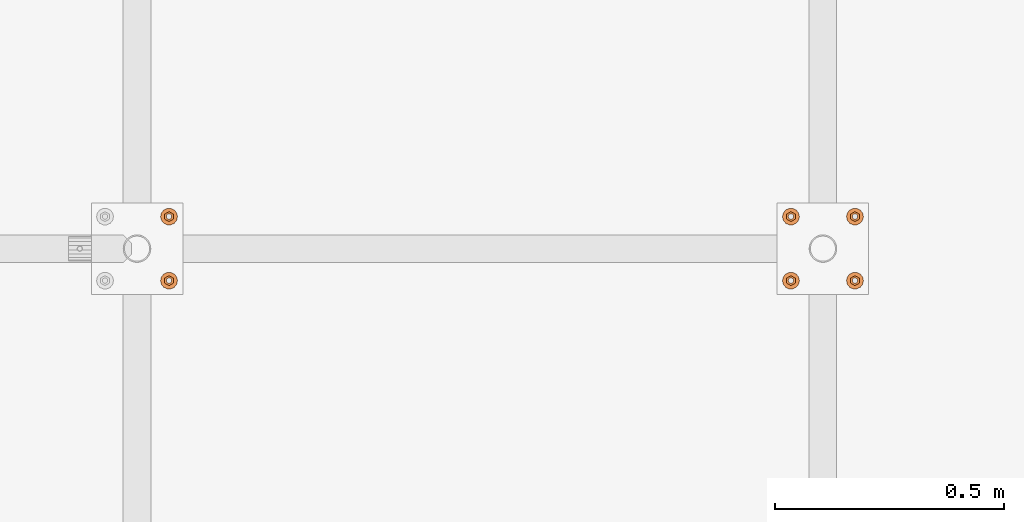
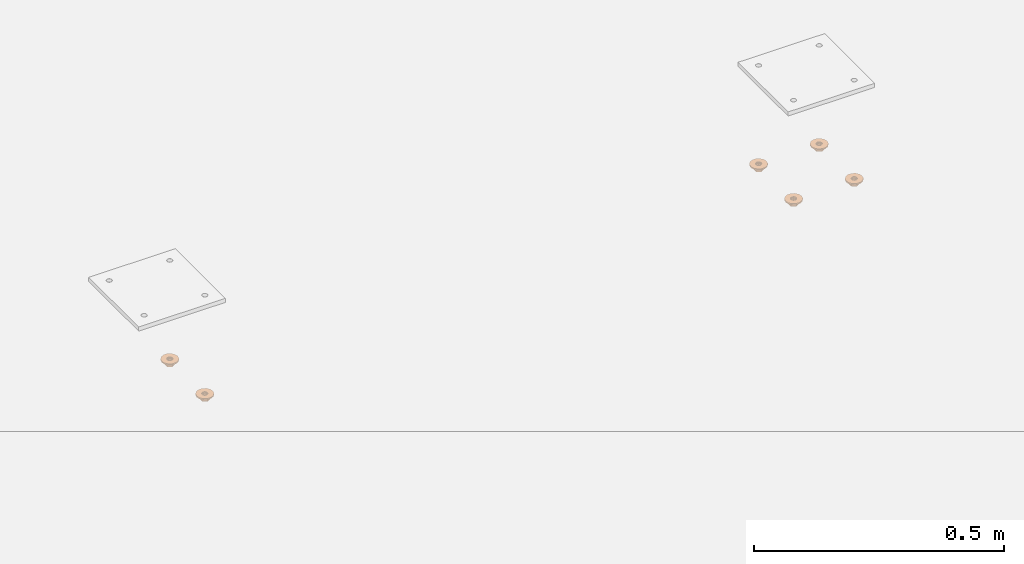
# One storey, part 28 of 30: 12 proxies.
"""IFC2X3 building model written with IfcOpenShell, lengths in millimetres."""

from ifc_helpers import new_model, entity, si_unit, converted_unit, origin_with_axes, place, context, project, spatial, faceted_brep, material, element, save


model = new_model("IFC2X3")

# Units and contexts
model_context = context("Model", 3, precision=1e-09, world=origin_with_axes())
ifc_project = project(units=[si_unit("LENGTHUNIT", "METRE", prefix="MILLI"), si_unit("AREAUNIT", "SQUARE_METRE"), si_unit("VOLUMEUNIT", "CUBIC_METRE"), converted_unit("PLANEANGLEUNIT", "DEGREE", entity("IfcPlaneAngleMeasure", 0.01745329), si_unit("PLANEANGLEUNIT", "RADIAN"), dimensions=[0, 0, 0, 0, 0, 0, 0])], contexts=[model_context])

# Site, building, storey
site_placement = place(None, origin_with_axes())
site = spatial("IfcSite", under=ifc_project, at=site_placement, Name="M?nsinger Stra?e, 81477 M?nchen", CompositionType="ELEMENT")
building_placement = place(site_placement, origin_with_axes())
building = spatial("IfcBuilding", under=site, at=building_placement, Name="Struktur 1", CompositionType="ELEMENT")
storey_placement = place(building_placement, origin_with_axes())
storey = spatial("IfcBuildingStorey", under=building, at=storey_placement, Name="Default Storey", CompositionType="ELEMENT", Elevation=0.0)

# Proxies
ifc_material = material(Name="Kein")
proxy_1_placement = place(None, origin_with_axes())
element("IfcBuildingElementProxy", 1, at=proxy_1_placement, inside=storey, material=ifc_material, ObjectType="-", context=model_context, shape_type="Brep", body=[
    faceted_brep([(7470.315117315, 3061.2632594, 6502.0), (7470.315117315, 3061.2632594, 6512.0), (7471.118964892, 3058.2632594, 6512.0), (7471.118964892, 3058.2632594, 6502.0), (7473.315117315, 3056.067106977, 6512.0), (7473.315117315, 3056.067106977, 6502.0), (7471.118964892, 3064.2632594, 6502.0), (7471.118964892, 3064.2632594, 6512.0), (7466.815117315, 3066.748086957, 6512.0), (7466.815117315, 3055.778431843, 6512.0), (7476.315117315, 3050.293604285, 6512.0), (7485.815117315, 3055.778431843, 6512.0), (7485.815117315, 3066.748086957, 6512.0), (7476.315117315, 3072.232914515, 6512.0), (7473.315117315, 3066.459411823, 6512.0), (7476.315117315, 3067.2632594, 6512.0), (7479.315117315, 3066.459411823, 6512.0), (7481.511269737, 3064.2632594, 6512.0), (7482.315117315, 3061.2632594, 6512.0), (7481.511269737, 3058.2632594, 6512.0), (7479.315117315, 3056.067106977, 6512.0), (7476.315117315, 3055.2632594, 6512.0), (7466.815117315, 3066.748086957, 6502.0), (7476.315117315, 3072.232914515, 6502.0), (7485.815117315, 3066.748086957, 6502.0), (7485.815117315, 3055.778431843, 6502.0), (7476.315117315, 3050.293604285, 6502.0), (7466.815117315, 3055.778431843, 6502.0), (7473.315117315, 3066.459411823, 6502.0), (7476.315117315, 3055.2632594, 6502.0), (7476.315117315, 3067.2632594, 6502.0), (7479.315117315, 3056.067106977, 6502.0), (7479.315117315, 3066.459411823, 6502.0), (7481.511269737, 3058.2632594, 6502.0), (7481.511269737, 3064.2632594, 6502.0), (7482.315117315, 3061.2632594, 6502.0)], [[[0, 1, 2, 3]], [[3, 2, 4, 5]], [[1, 0, 6, 7]], [[8, 9, 10, 11, 12, 13], [7, 14, 15, 16, 17, 18, 19, 20, 21, 4, 2, 1]], [[22, 23, 24, 25, 26, 27]], [[7, 6, 28, 14]], [[22, 27, 9, 8]], [[5, 4, 21, 29]], [[10, 9, 27, 26]], [[14, 28, 30, 15]], [[23, 22, 8, 13]], [[29, 21, 20, 31]], [[11, 10, 26, 25]], [[15, 30, 32, 16]], [[24, 23, 13, 12]], [[31, 20, 19, 33]], [[25, 24, 12, 11]], [[16, 32, 34, 17]], [[33, 19, 18, 35]], [[17, 34, 35, 18]]]),
])
proxy_2_placement = place(None, origin_with_axes())
element("IfcBuildingElementProxy", 2, at=proxy_2_placement, inside=storey, material=ifc_material, ObjectType="-", context=model_context, shape_type="Brep", body=[
    faceted_brep([(7464.78055598, 3046.799376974, 6512.0), (7464.78055598, 3046.799376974, 6515.0), (7459.647193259, 3053.236410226, 6515.0), (7459.647193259, 3053.236410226, 6512.0), (7472.198480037, 3043.227093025, 6515.0), (7480.431754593, 3043.227093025, 6515.0), (7487.849678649, 3046.799376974, 6515.0), (7492.983041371, 3053.236410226, 6515.0), (7494.815117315, 3061.2632594, 6515.0), (7492.983041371, 3069.290108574, 6515.0), (7487.849678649, 3075.727141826, 6515.0), (7480.431754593, 3079.299425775, 6515.0), (7472.198480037, 3079.299425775, 6515.0), (7464.78055598, 3075.727141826, 6515.0), (7459.647193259, 3069.290108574, 6515.0), (7457.815117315, 3061.2632594, 6515.0), (7473.065117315, 3055.634094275, 6515.0), (7470.68595219, 3058.0132594, 6515.0), (7469.815117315, 3061.2632594, 6515.0), (7470.68595219, 3064.5132594, 6515.0), (7473.065117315, 3066.892424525, 6515.0), (7476.315117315, 3067.7632594, 6515.0), (7479.565117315, 3066.892424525, 6515.0), (7481.944282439, 3064.5132594, 6515.0), (7482.815117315, 3061.2632594, 6515.0), (7481.944282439, 3058.0132594, 6515.0), (7479.565117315, 3055.634094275, 6515.0), (7476.315117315, 3054.7632594, 6515.0), (7457.815117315, 3061.2632594, 6512.0), (7459.647193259, 3069.290108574, 6512.0), (7464.78055598, 3075.727141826, 6512.0), (7472.198480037, 3079.299425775, 6512.0), (7480.431754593, 3079.299425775, 6512.0), (7487.849678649, 3075.727141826, 6512.0), (7492.983041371, 3069.290108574, 6512.0), (7494.815117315, 3061.2632594, 6512.0), (7492.983041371, 3053.236410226, 6512.0), (7487.849678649, 3046.799376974, 6512.0), (7480.431754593, 3043.227093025, 6512.0), (7472.198480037, 3043.227093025, 6512.0), (7469.815117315, 3061.2632594, 6512.0), (7470.68595219, 3058.0132594, 6512.0), (7473.065117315, 3055.634094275, 6512.0), (7476.315117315, 3054.7632594, 6512.0), (7479.565117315, 3055.634094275, 6512.0), (7481.944282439, 3058.0132594, 6512.0), (7482.815117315, 3061.2632594, 6512.0), (7481.944282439, 3064.5132594, 6512.0), (7479.565117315, 3066.892424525, 6512.0), (7476.315117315, 3067.7632594, 6512.0), (7473.065117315, 3066.892424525, 6512.0), (7470.68595219, 3064.5132594, 6512.0)], [[[0, 1, 2, 3]], [[4, 5, 6, 7, 8, 9, 10, 11, 12, 13, 14, 15, 2, 1], [16, 17, 18, 19, 20, 21, 22, 23, 24, 25, 26, 27]], [[28, 29, 30, 31, 32, 33, 34, 35, 36, 37, 38, 39, 0, 3], [40, 41, 42, 43, 44, 45, 46, 47, 48, 49, 50, 51]], [[1, 0, 39, 4]], [[41, 17, 16, 42]], [[17, 41, 40, 18]], [[3, 2, 15, 28]], [[4, 39, 38, 5]], [[42, 16, 27, 43]], [[18, 40, 51, 19]], [[28, 15, 14, 29]], [[5, 38, 37, 6]], [[43, 27, 26, 44]], [[19, 51, 50, 20]], [[29, 14, 13, 30]], [[6, 37, 36, 7]], [[44, 26, 25, 45]], [[20, 50, 49, 21]], [[30, 13, 12, 31]], [[7, 36, 35, 8]], [[45, 25, 24, 46]], [[48, 22, 21, 49]], [[31, 12, 11, 32]], [[23, 47, 46, 24]], [[22, 48, 47, 23]], [[8, 35, 34, 9]], [[32, 11, 10, 33]], [[9, 34, 33, 10]]]),
])
proxy_3_placement = place(None, origin_with_axes())
element("IfcBuildingElementProxy", 3, at=proxy_3_placement, inside=storey, material=ifc_material, ObjectType="-", context=model_context, shape_type="Brep", body=[
    faceted_brep([(7464.78055598, 2906.799376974, 6512.0), (7464.78055598, 2906.799376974, 6515.0), (7459.647193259, 2913.236410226, 6515.0), (7459.647193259, 2913.236410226, 6512.0), (7472.198480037, 2903.227093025, 6515.0), (7480.431754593, 2903.227093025, 6515.0), (7487.849678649, 2906.799376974, 6515.0), (7492.983041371, 2913.236410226, 6515.0), (7494.815117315, 2921.2632594, 6515.0), (7492.983041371, 2929.290108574, 6515.0), (7487.849678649, 2935.727141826, 6515.0), (7480.431754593, 2939.299425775, 6515.0), (7472.198480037, 2939.299425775, 6515.0), (7464.78055598, 2935.727141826, 6515.0), (7459.647193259, 2929.290108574, 6515.0), (7457.815117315, 2921.2632594, 6515.0), (7473.065117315, 2915.634094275, 6515.0), (7470.68595219, 2918.0132594, 6515.0), (7469.815117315, 2921.2632594, 6515.0), (7470.68595219, 2924.5132594, 6515.0), (7473.065117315, 2926.892424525, 6515.0), (7476.315117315, 2927.7632594, 6515.0), (7479.565117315, 2926.892424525, 6515.0), (7481.944282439, 2924.5132594, 6515.0), (7482.815117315, 2921.2632594, 6515.0), (7481.944282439, 2918.0132594, 6515.0), (7479.565117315, 2915.634094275, 6515.0), (7476.315117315, 2914.7632594, 6515.0), (7457.815117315, 2921.2632594, 6512.0), (7459.647193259, 2929.290108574, 6512.0), (7464.78055598, 2935.727141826, 6512.0), (7472.198480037, 2939.299425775, 6512.0), (7480.431754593, 2939.299425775, 6512.0), (7487.849678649, 2935.727141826, 6512.0), (7492.983041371, 2929.290108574, 6512.0), (7494.815117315, 2921.2632594, 6512.0), (7492.983041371, 2913.236410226, 6512.0), (7487.849678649, 2906.799376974, 6512.0), (7480.431754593, 2903.227093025, 6512.0), (7472.198480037, 2903.227093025, 6512.0), (7469.815117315, 2921.2632594, 6512.0), (7470.68595219, 2918.0132594, 6512.0), (7473.065117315, 2915.634094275, 6512.0), (7476.315117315, 2914.7632594, 6512.0), (7479.565117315, 2915.634094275, 6512.0), (7481.944282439, 2918.0132594, 6512.0), (7482.815117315, 2921.2632594, 6512.0), (7481.944282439, 2924.5132594, 6512.0), (7479.565117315, 2926.892424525, 6512.0), (7476.315117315, 2927.7632594, 6512.0), (7473.065117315, 2926.892424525, 6512.0), (7470.68595219, 2924.5132594, 6512.0)], [[[0, 1, 2, 3]], [[4, 5, 6, 7, 8, 9, 10, 11, 12, 13, 14, 15, 2, 1], [16, 17, 18, 19, 20, 21, 22, 23, 24, 25, 26, 27]], [[28, 29, 30, 31, 32, 33, 34, 35, 36, 37, 38, 39, 0, 3], [40, 41, 42, 43, 44, 45, 46, 47, 48, 49, 50, 51]], [[1, 0, 39, 4]], [[41, 17, 16, 42]], [[17, 41, 40, 18]], [[3, 2, 15, 28]], [[4, 39, 38, 5]], [[42, 16, 27, 43]], [[18, 40, 51, 19]], [[28, 15, 14, 29]], [[5, 38, 37, 6]], [[43, 27, 26, 44]], [[19, 51, 50, 20]], [[29, 14, 13, 30]], [[6, 37, 36, 7]], [[44, 26, 25, 45]], [[20, 50, 49, 21]], [[30, 13, 12, 31]], [[7, 36, 35, 8]], [[45, 25, 24, 46]], [[48, 22, 21, 49]], [[31, 12, 11, 32]], [[23, 47, 46, 24]], [[22, 48, 47, 23]], [[8, 35, 34, 9]], [[32, 11, 10, 33]], [[9, 34, 33, 10]]]),
])
proxy_4_placement = place(None, origin_with_axes())
element("IfcBuildingElementProxy", 4, at=proxy_4_placement, inside=storey, material=ifc_material, ObjectType="-", context=model_context, shape_type="Brep", body=[
    faceted_brep([(7470.315117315, 2921.2632594, 6502.0), (7470.315117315, 2921.2632594, 6512.0), (7471.118964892, 2918.2632594, 6512.0), (7471.118964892, 2918.2632594, 6502.0), (7473.315117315, 2916.067106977, 6512.0), (7473.315117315, 2916.067106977, 6502.0), (7471.118964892, 2924.2632594, 6502.0), (7471.118964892, 2924.2632594, 6512.0), (7466.815117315, 2926.748086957, 6512.0), (7466.815117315, 2915.778431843, 6512.0), (7476.315117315, 2910.293604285, 6512.0), (7485.815117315, 2915.778431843, 6512.0), (7485.815117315, 2926.748086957, 6512.0), (7476.315117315, 2932.232914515, 6512.0), (7473.315117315, 2926.459411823, 6512.0), (7476.315117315, 2927.2632594, 6512.0), (7479.315117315, 2926.459411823, 6512.0), (7481.511269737, 2924.2632594, 6512.0), (7482.315117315, 2921.2632594, 6512.0), (7481.511269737, 2918.2632594, 6512.0), (7479.315117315, 2916.067106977, 6512.0), (7476.315117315, 2915.2632594, 6512.0), (7466.815117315, 2926.748086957, 6502.0), (7476.315117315, 2932.232914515, 6502.0), (7485.815117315, 2926.748086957, 6502.0), (7485.815117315, 2915.778431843, 6502.0), (7476.315117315, 2910.293604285, 6502.0), (7466.815117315, 2915.778431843, 6502.0), (7473.315117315, 2926.459411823, 6502.0), (7476.315117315, 2915.2632594, 6502.0), (7476.315117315, 2927.2632594, 6502.0), (7479.315117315, 2916.067106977, 6502.0), (7479.315117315, 2926.459411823, 6502.0), (7481.511269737, 2918.2632594, 6502.0), (7481.511269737, 2924.2632594, 6502.0), (7482.315117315, 2921.2632594, 6502.0)], [[[0, 1, 2, 3]], [[3, 2, 4, 5]], [[1, 0, 6, 7]], [[8, 9, 10, 11, 12, 13], [7, 14, 15, 16, 17, 18, 19, 20, 21, 4, 2, 1]], [[22, 23, 24, 25, 26, 27]], [[7, 6, 28, 14]], [[22, 27, 9, 8]], [[5, 4, 21, 29]], [[10, 9, 27, 26]], [[14, 28, 30, 15]], [[23, 22, 8, 13]], [[29, 21, 20, 31]], [[11, 10, 26, 25]], [[15, 30, 32, 16]], [[24, 23, 13, 12]], [[31, 20, 19, 33]], [[25, 24, 12, 11]], [[16, 32, 34, 17]], [[33, 19, 18, 35]], [[17, 34, 35, 18]]]),
])
proxy_5_placement = place(None, origin_with_axes())
element("IfcBuildingElementProxy", 5, at=proxy_5_placement, inside=storey, material=ifc_material, ObjectType="-", context=model_context, shape_type="Brep", body=[
    faceted_brep([(8987.849678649, 2906.799376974, 6515.0), (8987.849678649, 2906.799376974, 6512.0), (8992.983041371, 2913.236410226, 6512.0), (8992.983041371, 2913.236410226, 6515.0), (8972.198480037, 2903.227093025, 6515.0), (8980.431754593, 2903.227093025, 6515.0), (8994.815117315, 2921.2632594, 6515.0), (8992.983041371, 2929.290108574, 6515.0), (8987.849678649, 2935.727141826, 6515.0), (8980.431754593, 2939.299425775, 6515.0), (8972.198480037, 2939.299425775, 6515.0), (8964.78055598, 2935.727141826, 6515.0), (8959.647193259, 2929.290108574, 6515.0), (8957.815117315, 2921.2632594, 6515.0), (8959.647193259, 2913.236410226, 6515.0), (8964.78055598, 2906.799376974, 6515.0), (8979.565117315, 2915.634094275, 6515.0), (8976.315117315, 2914.7632594, 6515.0), (8973.065117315, 2915.634094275, 6515.0), (8970.68595219, 2918.0132594, 6515.0), (8969.815117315, 2921.2632594, 6515.0), (8970.68595219, 2924.5132594, 6515.0), (8973.065117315, 2926.892424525, 6515.0), (8976.315117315, 2927.7632594, 6515.0), (8979.565117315, 2926.892424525, 6515.0), (8981.944282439, 2924.5132594, 6515.0), (8982.815117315, 2921.2632594, 6515.0), (8981.944282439, 2918.0132594, 6515.0), (8992.983041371, 2929.290108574, 6512.0), (8994.815117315, 2921.2632594, 6512.0), (8980.431754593, 2903.227093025, 6512.0), (8972.198480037, 2903.227093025, 6512.0), (8964.78055598, 2906.799376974, 6512.0), (8959.647193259, 2913.236410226, 6512.0), (8957.815117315, 2921.2632594, 6512.0), (8959.647193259, 2929.290108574, 6512.0), (8964.78055598, 2935.727141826, 6512.0), (8972.198480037, 2939.299425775, 6512.0), (8980.431754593, 2939.299425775, 6512.0), (8987.849678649, 2935.727141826, 6512.0), (8982.815117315, 2921.2632594, 6512.0), (8981.944282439, 2924.5132594, 6512.0), (8979.565117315, 2926.892424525, 6512.0), (8976.315117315, 2927.7632594, 6512.0), (8973.065117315, 2926.892424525, 6512.0), (8970.68595219, 2924.5132594, 6512.0), (8969.815117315, 2921.2632594, 6512.0), (8970.68595219, 2918.0132594, 6512.0), (8973.065117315, 2915.634094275, 6512.0), (8976.315117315, 2914.7632594, 6512.0), (8979.565117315, 2915.634094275, 6512.0), (8981.944282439, 2918.0132594, 6512.0)], [[[0, 1, 2, 3]], [[4, 5, 0, 3, 6, 7, 8, 9, 10, 11, 12, 13, 14, 15], [16, 17, 18, 19, 20, 21, 22, 23, 24, 25, 26, 27]], [[28, 29, 2, 1, 30, 31, 32, 33, 34, 35, 36, 37, 38, 39], [40, 41, 42, 43, 44, 45, 46, 47, 48, 49, 50, 51]], [[1, 0, 5, 30]], [[27, 51, 50, 16]], [[51, 27, 26, 40]], [[3, 2, 29, 6]], [[30, 5, 4, 31]], [[16, 50, 49, 17]], [[40, 26, 25, 41]], [[6, 29, 28, 7]], [[31, 4, 15, 32]], [[17, 49, 48, 18]], [[41, 25, 24, 42]], [[7, 28, 39, 8]], [[32, 15, 14, 33]], [[18, 48, 47, 19]], [[42, 24, 23, 43]], [[8, 39, 38, 9]], [[33, 14, 13, 34]], [[19, 47, 46, 20]], [[22, 44, 43, 23]], [[9, 38, 37, 10]], [[45, 21, 20, 46]], [[44, 22, 21, 45]], [[34, 13, 12, 35]], [[10, 37, 36, 11]], [[35, 12, 11, 36]]]),
])
proxy_6_placement = place(None, origin_with_axes())
element("IfcBuildingElementProxy", 6, at=proxy_6_placement, inside=storey, material=ifc_material, ObjectType="-", context=model_context, shape_type="Brep", body=[
    faceted_brep([(8982.315117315, 2921.2632594, 6512.0), (8982.315117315, 2921.2632594, 6502.0), (8981.511269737, 2918.2632594, 6502.0), (8981.511269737, 2918.2632594, 6512.0), (8979.315117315, 2916.067106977, 6502.0), (8979.315117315, 2916.067106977, 6512.0), (8981.511269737, 2924.2632594, 6512.0), (8981.511269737, 2924.2632594, 6502.0), (8985.815117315, 2926.748086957, 6512.0), (8976.315117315, 2932.232914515, 6512.0), (8966.815117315, 2926.748086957, 6512.0), (8966.815117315, 2915.778431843, 6512.0), (8976.315117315, 2910.293604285, 6512.0), (8985.815117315, 2915.778431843, 6512.0), (8979.315117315, 2926.459411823, 6512.0), (8976.315117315, 2915.2632594, 6512.0), (8973.315117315, 2916.067106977, 6512.0), (8971.118964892, 2918.2632594, 6512.0), (8970.315117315, 2921.2632594, 6512.0), (8971.118964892, 2924.2632594, 6512.0), (8973.315117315, 2926.459411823, 6512.0), (8976.315117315, 2927.2632594, 6512.0), (8976.315117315, 2932.232914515, 6502.0), (8985.815117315, 2926.748086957, 6502.0), (8985.815117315, 2915.778431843, 6502.0), (8976.315117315, 2910.293604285, 6502.0), (8966.815117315, 2915.778431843, 6502.0), (8966.815117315, 2926.748086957, 6502.0), (8979.315117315, 2926.459411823, 6502.0), (8976.315117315, 2927.2632594, 6502.0), (8973.315117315, 2926.459411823, 6502.0), (8971.118964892, 2924.2632594, 6502.0), (8970.315117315, 2921.2632594, 6502.0), (8971.118964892, 2918.2632594, 6502.0), (8973.315117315, 2916.067106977, 6502.0), (8976.315117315, 2915.2632594, 6502.0)], [[[0, 1, 2, 3]], [[3, 2, 4, 5]], [[1, 0, 6, 7]], [[8, 9, 10, 11, 12, 13], [14, 6, 0, 3, 5, 15, 16, 17, 18, 19, 20, 21]], [[22, 23, 24, 25, 26, 27], [1, 7, 28, 29, 30, 31, 32, 33, 34, 35, 4, 2]], [[7, 6, 14, 28]], [[24, 23, 8, 13]], [[5, 4, 35, 15]], [[13, 12, 25, 24]], [[28, 14, 21, 29]], [[23, 22, 9, 8]], [[15, 35, 34, 16]], [[12, 11, 26, 25]], [[29, 21, 20, 30]], [[22, 27, 10, 9]], [[16, 34, 33, 17]], [[27, 26, 11, 10]], [[30, 20, 19, 31]], [[17, 33, 32, 18]], [[31, 19, 18, 32]]]),
])
proxy_7_placement = place(None, origin_with_axes())
element("IfcBuildingElementProxy", 7, at=proxy_7_placement, inside=storey, material=ifc_material, ObjectType="-", context=model_context, shape_type="Brep", body=[
    faceted_brep([(8842.315117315, 2921.2632594, 6512.0), (8842.315117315, 2921.2632594, 6502.0), (8841.511269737, 2918.2632594, 6502.0), (8841.511269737, 2918.2632594, 6512.0), (8839.315117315, 2916.067106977, 6502.0), (8839.315117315, 2916.067106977, 6512.0), (8841.511269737, 2924.2632594, 6512.0), (8841.511269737, 2924.2632594, 6502.0), (8845.815117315, 2926.748086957, 6512.0), (8836.315117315, 2932.232914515, 6512.0), (8826.815117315, 2926.748086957, 6512.0), (8826.815117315, 2915.778431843, 6512.0), (8836.315117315, 2910.293604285, 6512.0), (8845.815117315, 2915.778431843, 6512.0), (8839.315117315, 2926.459411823, 6512.0), (8836.315117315, 2915.2632594, 6512.0), (8833.315117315, 2916.067106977, 6512.0), (8831.118964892, 2918.2632594, 6512.0), (8830.315117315, 2921.2632594, 6512.0), (8831.118964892, 2924.2632594, 6512.0), (8833.315117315, 2926.459411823, 6512.0), (8836.315117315, 2927.2632594, 6512.0), (8836.315117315, 2932.232914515, 6502.0), (8845.815117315, 2926.748086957, 6502.0), (8845.815117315, 2915.778431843, 6502.0), (8836.315117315, 2910.293604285, 6502.0), (8826.815117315, 2915.778431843, 6502.0), (8826.815117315, 2926.748086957, 6502.0), (8839.315117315, 2926.459411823, 6502.0), (8836.315117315, 2927.2632594, 6502.0), (8833.315117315, 2926.459411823, 6502.0), (8831.118964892, 2924.2632594, 6502.0), (8830.315117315, 2921.2632594, 6502.0), (8831.118964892, 2918.2632594, 6502.0), (8833.315117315, 2916.067106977, 6502.0), (8836.315117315, 2915.2632594, 6502.0)], [[[0, 1, 2, 3]], [[3, 2, 4, 5]], [[1, 0, 6, 7]], [[8, 9, 10, 11, 12, 13], [14, 6, 0, 3, 5, 15, 16, 17, 18, 19, 20, 21]], [[22, 23, 24, 25, 26, 27], [1, 7, 28, 29, 30, 31, 32, 33, 34, 35, 4, 2]], [[7, 6, 14, 28]], [[24, 23, 8, 13]], [[5, 4, 35, 15]], [[13, 12, 25, 24]], [[28, 14, 21, 29]], [[23, 22, 9, 8]], [[15, 35, 34, 16]], [[12, 11, 26, 25]], [[29, 21, 20, 30]], [[22, 27, 10, 9]], [[16, 34, 33, 17]], [[27, 26, 11, 10]], [[30, 20, 19, 31]], [[17, 33, 32, 18]], [[31, 19, 18, 32]]]),
])
proxy_8_placement = place(None, origin_with_axes())
element("IfcBuildingElementProxy", 8, at=proxy_8_placement, inside=storey, material=ifc_material, ObjectType="-", context=model_context, shape_type="Brep", body=[
    faceted_brep([(8847.849678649, 2906.799376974, 6515.0), (8847.849678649, 2906.799376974, 6512.0), (8852.983041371, 2913.236410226, 6512.0), (8852.983041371, 2913.236410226, 6515.0), (8832.198480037, 2903.227093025, 6515.0), (8840.431754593, 2903.227093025, 6515.0), (8854.815117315, 2921.2632594, 6515.0), (8852.983041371, 2929.290108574, 6515.0), (8847.849678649, 2935.727141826, 6515.0), (8840.431754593, 2939.299425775, 6515.0), (8832.198480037, 2939.299425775, 6515.0), (8824.78055598, 2935.727141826, 6515.0), (8819.647193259, 2929.290108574, 6515.0), (8817.815117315, 2921.2632594, 6515.0), (8819.647193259, 2913.236410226, 6515.0), (8824.78055598, 2906.799376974, 6515.0), (8839.565117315, 2915.634094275, 6515.0), (8836.315117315, 2914.7632594, 6515.0), (8833.065117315, 2915.634094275, 6515.0), (8830.68595219, 2918.0132594, 6515.0), (8829.815117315, 2921.2632594, 6515.0), (8830.68595219, 2924.5132594, 6515.0), (8833.065117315, 2926.892424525, 6515.0), (8836.315117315, 2927.7632594, 6515.0), (8839.565117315, 2926.892424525, 6515.0), (8841.944282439, 2924.5132594, 6515.0), (8842.815117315, 2921.2632594, 6515.0), (8841.944282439, 2918.0132594, 6515.0), (8852.983041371, 2929.290108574, 6512.0), (8854.815117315, 2921.2632594, 6512.0), (8840.431754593, 2903.227093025, 6512.0), (8832.198480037, 2903.227093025, 6512.0), (8824.78055598, 2906.799376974, 6512.0), (8819.647193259, 2913.236410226, 6512.0), (8817.815117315, 2921.2632594, 6512.0), (8819.647193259, 2929.290108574, 6512.0), (8824.78055598, 2935.727141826, 6512.0), (8832.198480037, 2939.299425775, 6512.0), (8840.431754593, 2939.299425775, 6512.0), (8847.849678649, 2935.727141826, 6512.0), (8842.815117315, 2921.2632594, 6512.0), (8841.944282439, 2924.5132594, 6512.0), (8839.565117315, 2926.892424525, 6512.0), (8836.315117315, 2927.7632594, 6512.0), (8833.065117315, 2926.892424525, 6512.0), (8830.68595219, 2924.5132594, 6512.0), (8829.815117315, 2921.2632594, 6512.0), (8830.68595219, 2918.0132594, 6512.0), (8833.065117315, 2915.634094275, 6512.0), (8836.315117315, 2914.7632594, 6512.0), (8839.565117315, 2915.634094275, 6512.0), (8841.944282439, 2918.0132594, 6512.0)], [[[0, 1, 2, 3]], [[4, 5, 0, 3, 6, 7, 8, 9, 10, 11, 12, 13, 14, 15], [16, 17, 18, 19, 20, 21, 22, 23, 24, 25, 26, 27]], [[28, 29, 2, 1, 30, 31, 32, 33, 34, 35, 36, 37, 38, 39], [40, 41, 42, 43, 44, 45, 46, 47, 48, 49, 50, 51]], [[1, 0, 5, 30]], [[27, 51, 50, 16]], [[51, 27, 26, 40]], [[3, 2, 29, 6]], [[30, 5, 4, 31]], [[16, 50, 49, 17]], [[40, 26, 25, 41]], [[6, 29, 28, 7]], [[31, 4, 15, 32]], [[17, 49, 48, 18]], [[41, 25, 24, 42]], [[7, 28, 39, 8]], [[32, 15, 14, 33]], [[18, 48, 47, 19]], [[42, 24, 23, 43]], [[8, 39, 38, 9]], [[33, 14, 13, 34]], [[19, 47, 46, 20]], [[22, 44, 43, 23]], [[9, 38, 37, 10]], [[45, 21, 20, 46]], [[44, 22, 21, 45]], [[34, 13, 12, 35]], [[10, 37, 36, 11]], [[35, 12, 11, 36]]]),
])
proxy_9_placement = place(None, origin_with_axes())
element("IfcBuildingElementProxy", 9, at=proxy_9_placement, inside=storey, material=ifc_material, ObjectType="-", context=model_context, shape_type="Brep", body=[
    faceted_brep([(8847.849678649, 3046.799376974, 6515.0), (8847.849678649, 3046.799376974, 6512.0), (8852.983041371, 3053.236410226, 6512.0), (8852.983041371, 3053.236410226, 6515.0), (8832.198480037, 3043.227093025, 6515.0), (8840.431754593, 3043.227093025, 6515.0), (8854.815117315, 3061.2632594, 6515.0), (8852.983041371, 3069.290108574, 6515.0), (8847.849678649, 3075.727141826, 6515.0), (8840.431754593, 3079.299425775, 6515.0), (8832.198480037, 3079.299425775, 6515.0), (8824.78055598, 3075.727141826, 6515.0), (8819.647193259, 3069.290108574, 6515.0), (8817.815117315, 3061.2632594, 6515.0), (8819.647193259, 3053.236410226, 6515.0), (8824.78055598, 3046.799376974, 6515.0), (8839.565117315, 3055.634094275, 6515.0), (8836.315117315, 3054.7632594, 6515.0), (8833.065117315, 3055.634094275, 6515.0), (8830.68595219, 3058.0132594, 6515.0), (8829.815117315, 3061.2632594, 6515.0), (8830.68595219, 3064.5132594, 6515.0), (8833.065117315, 3066.892424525, 6515.0), (8836.315117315, 3067.7632594, 6515.0), (8839.565117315, 3066.892424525, 6515.0), (8841.944282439, 3064.5132594, 6515.0), (8842.815117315, 3061.2632594, 6515.0), (8841.944282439, 3058.0132594, 6515.0), (8852.983041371, 3069.290108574, 6512.0), (8854.815117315, 3061.2632594, 6512.0), (8840.431754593, 3043.227093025, 6512.0), (8832.198480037, 3043.227093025, 6512.0), (8824.78055598, 3046.799376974, 6512.0), (8819.647193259, 3053.236410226, 6512.0), (8817.815117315, 3061.2632594, 6512.0), (8819.647193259, 3069.290108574, 6512.0), (8824.78055598, 3075.727141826, 6512.0), (8832.198480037, 3079.299425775, 6512.0), (8840.431754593, 3079.299425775, 6512.0), (8847.849678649, 3075.727141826, 6512.0), (8842.815117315, 3061.2632594, 6512.0), (8841.944282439, 3064.5132594, 6512.0), (8839.565117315, 3066.892424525, 6512.0), (8836.315117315, 3067.7632594, 6512.0), (8833.065117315, 3066.892424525, 6512.0), (8830.68595219, 3064.5132594, 6512.0), (8829.815117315, 3061.2632594, 6512.0), (8830.68595219, 3058.0132594, 6512.0), (8833.065117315, 3055.634094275, 6512.0), (8836.315117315, 3054.7632594, 6512.0), (8839.565117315, 3055.634094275, 6512.0), (8841.944282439, 3058.0132594, 6512.0)], [[[0, 1, 2, 3]], [[4, 5, 0, 3, 6, 7, 8, 9, 10, 11, 12, 13, 14, 15], [16, 17, 18, 19, 20, 21, 22, 23, 24, 25, 26, 27]], [[28, 29, 2, 1, 30, 31, 32, 33, 34, 35, 36, 37, 38, 39], [40, 41, 42, 43, 44, 45, 46, 47, 48, 49, 50, 51]], [[1, 0, 5, 30]], [[27, 51, 50, 16]], [[51, 27, 26, 40]], [[3, 2, 29, 6]], [[30, 5, 4, 31]], [[16, 50, 49, 17]], [[40, 26, 25, 41]], [[6, 29, 28, 7]], [[31, 4, 15, 32]], [[17, 49, 48, 18]], [[41, 25, 24, 42]], [[7, 28, 39, 8]], [[32, 15, 14, 33]], [[18, 48, 47, 19]], [[42, 24, 23, 43]], [[8, 39, 38, 9]], [[33, 14, 13, 34]], [[19, 47, 46, 20]], [[22, 44, 43, 23]], [[9, 38, 37, 10]], [[45, 21, 20, 46]], [[44, 22, 21, 45]], [[34, 13, 12, 35]], [[10, 37, 36, 11]], [[35, 12, 11, 36]]]),
])
proxy_10_placement = place(None, origin_with_axes())
element("IfcBuildingElementProxy", 10, at=proxy_10_placement, inside=storey, material=ifc_material, ObjectType="-", context=model_context, shape_type="Brep", body=[
    faceted_brep([(8842.315117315, 3061.2632594, 6512.0), (8842.315117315, 3061.2632594, 6502.0), (8841.511269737, 3058.2632594, 6502.0), (8841.511269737, 3058.2632594, 6512.0), (8839.315117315, 3056.067106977, 6502.0), (8839.315117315, 3056.067106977, 6512.0), (8841.511269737, 3064.2632594, 6512.0), (8841.511269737, 3064.2632594, 6502.0), (8845.815117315, 3066.748086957, 6512.0), (8836.315117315, 3072.232914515, 6512.0), (8826.815117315, 3066.748086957, 6512.0), (8826.815117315, 3055.778431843, 6512.0), (8836.315117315, 3050.293604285, 6512.0), (8845.815117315, 3055.778431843, 6512.0), (8839.315117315, 3066.459411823, 6512.0), (8836.315117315, 3055.2632594, 6512.0), (8833.315117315, 3056.067106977, 6512.0), (8831.118964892, 3058.2632594, 6512.0), (8830.315117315, 3061.2632594, 6512.0), (8831.118964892, 3064.2632594, 6512.0), (8833.315117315, 3066.459411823, 6512.0), (8836.315117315, 3067.2632594, 6512.0), (8836.315117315, 3072.232914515, 6502.0), (8845.815117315, 3066.748086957, 6502.0), (8845.815117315, 3055.778431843, 6502.0), (8836.315117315, 3050.293604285, 6502.0), (8826.815117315, 3055.778431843, 6502.0), (8826.815117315, 3066.748086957, 6502.0), (8839.315117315, 3066.459411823, 6502.0), (8836.315117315, 3067.2632594, 6502.0), (8833.315117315, 3066.459411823, 6502.0), (8831.118964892, 3064.2632594, 6502.0), (8830.315117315, 3061.2632594, 6502.0), (8831.118964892, 3058.2632594, 6502.0), (8833.315117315, 3056.067106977, 6502.0), (8836.315117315, 3055.2632594, 6502.0)], [[[0, 1, 2, 3]], [[3, 2, 4, 5]], [[1, 0, 6, 7]], [[8, 9, 10, 11, 12, 13], [14, 6, 0, 3, 5, 15, 16, 17, 18, 19, 20, 21]], [[22, 23, 24, 25, 26, 27], [1, 7, 28, 29, 30, 31, 32, 33, 34, 35, 4, 2]], [[7, 6, 14, 28]], [[24, 23, 8, 13]], [[5, 4, 35, 15]], [[13, 12, 25, 24]], [[28, 14, 21, 29]], [[23, 22, 9, 8]], [[15, 35, 34, 16]], [[12, 11, 26, 25]], [[29, 21, 20, 30]], [[22, 27, 10, 9]], [[16, 34, 33, 17]], [[27, 26, 11, 10]], [[30, 20, 19, 31]], [[17, 33, 32, 18]], [[31, 19, 18, 32]]]),
])
proxy_11_placement = place(None, origin_with_axes())
element("IfcBuildingElementProxy", 11, at=proxy_11_placement, inside=storey, material=ifc_material, ObjectType="-", context=model_context, shape_type="Brep", body=[
    faceted_brep([(8982.315117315, 3061.2632594, 6512.0), (8982.315117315, 3061.2632594, 6502.0), (8981.511269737, 3058.2632594, 6502.0), (8981.511269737, 3058.2632594, 6512.0), (8979.315117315, 3056.067106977, 6502.0), (8979.315117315, 3056.067106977, 6512.0), (8981.511269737, 3064.2632594, 6512.0), (8981.511269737, 3064.2632594, 6502.0), (8985.815117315, 3066.748086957, 6512.0), (8976.315117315, 3072.232914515, 6512.0), (8966.815117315, 3066.748086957, 6512.0), (8966.815117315, 3055.778431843, 6512.0), (8976.315117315, 3050.293604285, 6512.0), (8985.815117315, 3055.778431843, 6512.0), (8979.315117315, 3066.459411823, 6512.0), (8976.315117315, 3055.2632594, 6512.0), (8973.315117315, 3056.067106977, 6512.0), (8971.118964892, 3058.2632594, 6512.0), (8970.315117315, 3061.2632594, 6512.0), (8971.118964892, 3064.2632594, 6512.0), (8973.315117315, 3066.459411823, 6512.0), (8976.315117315, 3067.2632594, 6512.0), (8976.315117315, 3072.232914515, 6502.0), (8985.815117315, 3066.748086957, 6502.0), (8985.815117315, 3055.778431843, 6502.0), (8976.315117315, 3050.293604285, 6502.0), (8966.815117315, 3055.778431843, 6502.0), (8966.815117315, 3066.748086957, 6502.0), (8979.315117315, 3066.459411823, 6502.0), (8976.315117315, 3067.2632594, 6502.0), (8973.315117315, 3066.459411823, 6502.0), (8971.118964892, 3064.2632594, 6502.0), (8970.315117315, 3061.2632594, 6502.0), (8971.118964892, 3058.2632594, 6502.0), (8973.315117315, 3056.067106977, 6502.0), (8976.315117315, 3055.2632594, 6502.0)], [[[0, 1, 2, 3]], [[3, 2, 4, 5]], [[1, 0, 6, 7]], [[8, 9, 10, 11, 12, 13], [14, 6, 0, 3, 5, 15, 16, 17, 18, 19, 20, 21]], [[22, 23, 24, 25, 26, 27], [1, 7, 28, 29, 30, 31, 32, 33, 34, 35, 4, 2]], [[7, 6, 14, 28]], [[24, 23, 8, 13]], [[5, 4, 35, 15]], [[13, 12, 25, 24]], [[28, 14, 21, 29]], [[23, 22, 9, 8]], [[15, 35, 34, 16]], [[12, 11, 26, 25]], [[29, 21, 20, 30]], [[22, 27, 10, 9]], [[16, 34, 33, 17]], [[27, 26, 11, 10]], [[30, 20, 19, 31]], [[17, 33, 32, 18]], [[31, 19, 18, 32]]]),
])
proxy_12_placement = place(None, origin_with_axes())
element("IfcBuildingElementProxy", 12, at=proxy_12_placement, inside=storey, material=ifc_material, ObjectType="-", context=model_context, shape_type="Brep", body=[
    faceted_brep([(8987.849678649, 3046.799376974, 6515.0), (8987.849678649, 3046.799376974, 6512.0), (8992.983041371, 3053.236410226, 6512.0), (8992.983041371, 3053.236410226, 6515.0), (8972.198480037, 3043.227093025, 6515.0), (8980.431754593, 3043.227093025, 6515.0), (8994.815117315, 3061.2632594, 6515.0), (8992.983041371, 3069.290108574, 6515.0), (8987.849678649, 3075.727141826, 6515.0), (8980.431754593, 3079.299425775, 6515.0), (8972.198480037, 3079.299425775, 6515.0), (8964.78055598, 3075.727141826, 6515.0), (8959.647193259, 3069.290108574, 6515.0), (8957.815117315, 3061.2632594, 6515.0), (8959.647193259, 3053.236410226, 6515.0), (8964.78055598, 3046.799376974, 6515.0), (8979.565117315, 3055.634094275, 6515.0), (8976.315117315, 3054.7632594, 6515.0), (8973.065117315, 3055.634094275, 6515.0), (8970.68595219, 3058.0132594, 6515.0), (8969.815117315, 3061.2632594, 6515.0), (8970.68595219, 3064.5132594, 6515.0), (8973.065117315, 3066.892424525, 6515.0), (8976.315117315, 3067.7632594, 6515.0), (8979.565117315, 3066.892424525, 6515.0), (8981.944282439, 3064.5132594, 6515.0), (8982.815117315, 3061.2632594, 6515.0), (8981.944282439, 3058.0132594, 6515.0), (8992.983041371, 3069.290108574, 6512.0), (8994.815117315, 3061.2632594, 6512.0), (8980.431754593, 3043.227093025, 6512.0), (8972.198480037, 3043.227093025, 6512.0), (8964.78055598, 3046.799376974, 6512.0), (8959.647193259, 3053.236410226, 6512.0), (8957.815117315, 3061.2632594, 6512.0), (8959.647193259, 3069.290108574, 6512.0), (8964.78055598, 3075.727141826, 6512.0), (8972.198480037, 3079.299425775, 6512.0), (8980.431754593, 3079.299425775, 6512.0), (8987.849678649, 3075.727141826, 6512.0), (8982.815117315, 3061.2632594, 6512.0), (8981.944282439, 3064.5132594, 6512.0), (8979.565117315, 3066.892424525, 6512.0), (8976.315117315, 3067.7632594, 6512.0), (8973.065117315, 3066.892424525, 6512.0), (8970.68595219, 3064.5132594, 6512.0), (8969.815117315, 3061.2632594, 6512.0), (8970.68595219, 3058.0132594, 6512.0), (8973.065117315, 3055.634094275, 6512.0), (8976.315117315, 3054.7632594, 6512.0), (8979.565117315, 3055.634094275, 6512.0), (8981.944282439, 3058.0132594, 6512.0)], [[[0, 1, 2, 3]], [[4, 5, 0, 3, 6, 7, 8, 9, 10, 11, 12, 13, 14, 15], [16, 17, 18, 19, 20, 21, 22, 23, 24, 25, 26, 27]], [[28, 29, 2, 1, 30, 31, 32, 33, 34, 35, 36, 37, 38, 39], [40, 41, 42, 43, 44, 45, 46, 47, 48, 49, 50, 51]], [[1, 0, 5, 30]], [[27, 51, 50, 16]], [[51, 27, 26, 40]], [[3, 2, 29, 6]], [[30, 5, 4, 31]], [[16, 50, 49, 17]], [[40, 26, 25, 41]], [[6, 29, 28, 7]], [[31, 4, 15, 32]], [[17, 49, 48, 18]], [[41, 25, 24, 42]], [[7, 28, 39, 8]], [[32, 15, 14, 33]], [[18, 48, 47, 19]], [[42, 24, 23, 43]], [[8, 39, 38, 9]], [[33, 14, 13, 34]], [[19, 47, 46, 20]], [[22, 44, 43, 23]], [[9, 38, 37, 10]], [[45, 21, 20, 46]], [[44, 22, 21, 45]], [[34, 13, 12, 35]], [[10, 37, 36, 11]], [[35, 12, 11, 36]]]),
])

save(model, "model.ifc")
